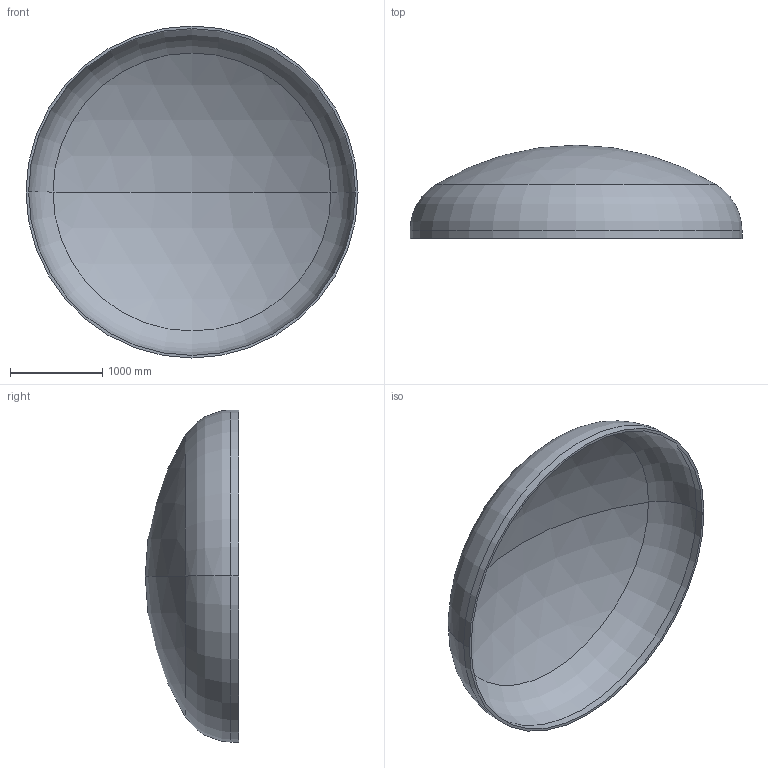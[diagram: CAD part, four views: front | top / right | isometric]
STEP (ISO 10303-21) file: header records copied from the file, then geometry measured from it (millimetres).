
FILE_DESCRIPTION (( 'STEP AP203' ), '1' );
FILE_NAME ('DIN 28013 Korbbogenform_-_Boden DIN 28013 - 3600 x 85 - I - s=28.step', '2016-07-01T20:16:33', ( '' ), ( '' ), 'SwSTEP 2.0', 'SolidWorks 2013', '' );
FILE_SCHEMA (( 'CONFIG_CONTROL_DESIGN' ));
Length unit declared in the file: millimetre
Products named in the file (1): DIN 28013 Korbbogenform_-_Boden DIN 28013 - 3600 x 85 - I - s=28
Bounding box: 3600 x 1011.96 x 3600 mm (x, y, z)
Volume: 417482739.8 mm3; surface area: 30136035.9 mm2
Topology: 1 solids, 1 shells, 13 faces, 24 edges, 14 vertices
Faces by surface type: torus 4, cylinder 4, sphere 4, plane 1
Entity records: 407 total; most frequent: DIRECTION 72, CARTESIAN_POINT 52, ORIENTED_EDGE 48, AXIS2_PLACEMENT_3D 34, EDGE_CURVE 24, CIRCLE 20, EDGE_LOOP 14, VERTEX_POINT 14
